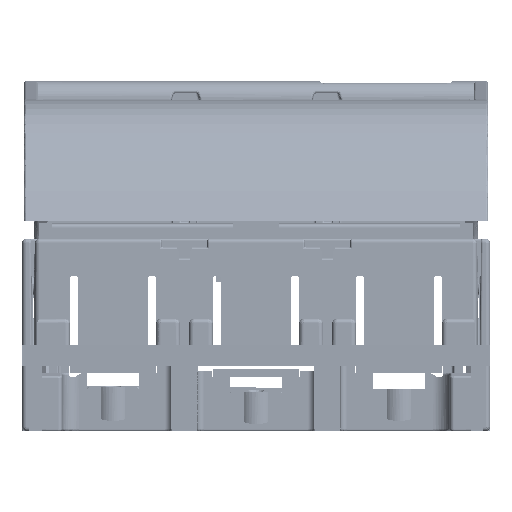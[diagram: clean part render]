
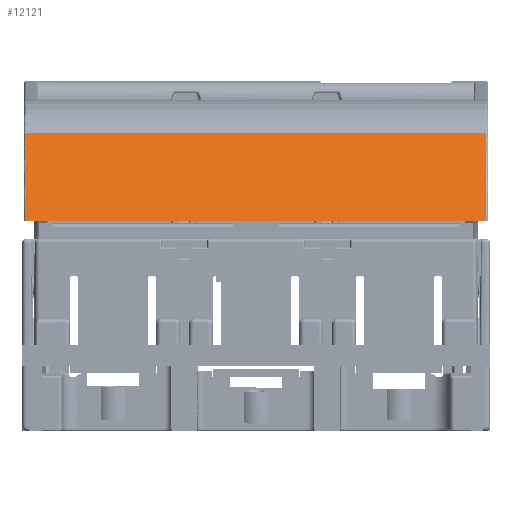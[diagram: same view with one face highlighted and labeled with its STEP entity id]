
A CAD part, front view. The second image highlights one B-rep face of the part: STEP entity #12121.
In plain terms, the highlighted cylindrical face has radius 90 mm (diameter 180 mm), a partial arc.
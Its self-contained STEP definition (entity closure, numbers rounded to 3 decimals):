
#2393 = VERTEX_POINT ( 'NONE', #34933 ) ;
#2401 = EDGE_CURVE ( 'NONE', #2393, #2403, #34831, .T. ) ;
#2403 = VERTEX_POINT ( 'NONE', #34819 ) ;
#11787 = EDGE_LOOP ( 'NONE', ( #12005, #12008, #12658, #32011 ) ) ;
#12005 = ORIENTED_EDGE ( 'NONE', *, *, #2401, .F. ) ;
#12008 = ORIENTED_EDGE ( 'NONE', *, *, #197767, .T. ) ;
#12121 = ADVANCED_FACE ( 'NONE', ( #110069 ), #110061, .T. ) ;
#12658 = ORIENTED_EDGE ( 'NONE', *, *, #12664, .F. ) ;
#12664 = EDGE_CURVE ( 'NONE', #194501, #197649, #111945, .T. ) ;
#32011 = ORIENTED_EDGE ( 'NONE', *, *, #194499, .T. ) ;
#34819 = CARTESIAN_POINT ( 'NONE',  ( -53., -60.416, 48.5 ) ) ;
#34822 = DIRECTION ( 'NONE',  ( -1., 0., 0. ) ) ;
#34824 = VECTOR ( 'NONE', #34822, 1000. ) ;
#34827 = CARTESIAN_POINT ( 'NONE',  ( 51.75, -60.416, 48.5 ) ) ;
#34831 = LINE ( 'NONE', #34827, #34824 ) ;
#34933 = CARTESIAN_POINT ( 'NONE',  ( 53., -60.416, 48.5 ) ) ;
#110052 = DIRECTION ( 'NONE',  ( 0., 0., 1. ) ) ;
#110053 = DIRECTION ( 'NONE',  ( -1., 0., 0. ) ) ;
#110055 = CARTESIAN_POINT ( 'NONE',  ( 50., 22.5, 13.5 ) ) ;
#110057 = AXIS2_PLACEMENT_3D ( 'NONE', #110055, #110053, #110052 ) ;
#110061 = CYLINDRICAL_SURFACE ( 'NONE', #110057, 90. ) ;
#110069 = FACE_OUTER_BOUND ( 'NONE', #11787, .T. ) ;
#111942 = DIRECTION ( 'NONE',  ( 1., 0., 0. ) ) ;
#111943 = VECTOR ( 'NONE', #111942, 1000. ) ;
#111944 = CARTESIAN_POINT ( 'NONE',  ( 53.5, -48.518, 68.786 ) ) ;
#111945 = LINE ( 'NONE', #111944, #111943 ) ;
#186120 = CIRCLE ( 'NONE', #186124, 90. ) ;
#186123 = CARTESIAN_POINT ( 'NONE',  ( -53., 22.5, 13.5 ) ) ;
#186124 = AXIS2_PLACEMENT_3D ( 'NONE', #186123, #186179, #186178 ) ;
#186177 = CARTESIAN_POINT ( 'NONE',  ( -53., -48.518, 68.786 ) ) ;
#186178 = DIRECTION ( 'NONE',  ( 0., 0., 1. ) ) ;
#186179 = DIRECTION ( 'NONE',  ( 1., 0., 0. ) ) ;
#194499 = EDGE_CURVE ( 'NONE', #194501, #2403, #186120, .T. ) ;
#194501 = VERTEX_POINT ( 'NONE', #186177 ) ;
#194638 = CARTESIAN_POINT ( 'NONE',  ( 53., -48.518, 68.786 ) ) ;
#195158 = DIRECTION ( 'NONE',  ( 0., 0., 1. ) ) ;
#195160 = DIRECTION ( 'NONE',  ( -1., 0., 0. ) ) ;
#195162 = AXIS2_PLACEMENT_3D ( 'NONE', #195170, #195160, #195158 ) ;
#195163 = CIRCLE ( 'NONE', #195162, 90. ) ;
#195170 = CARTESIAN_POINT ( 'NONE',  ( 53., 22.5, 13.5 ) ) ;
#197649 = VERTEX_POINT ( 'NONE', #194638 ) ;
#197767 = EDGE_CURVE ( 'NONE', #2393, #197649, #195163, .T. ) ;
